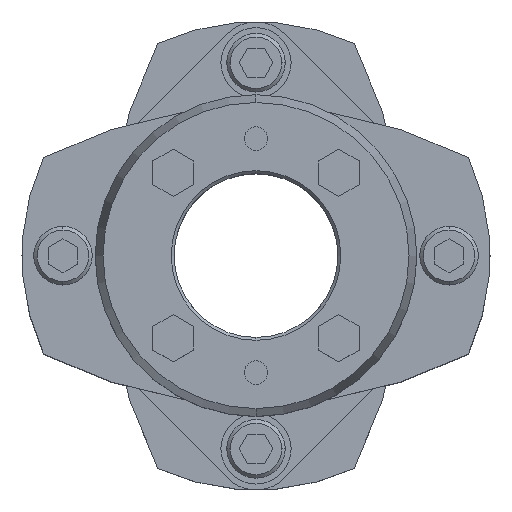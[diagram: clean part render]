
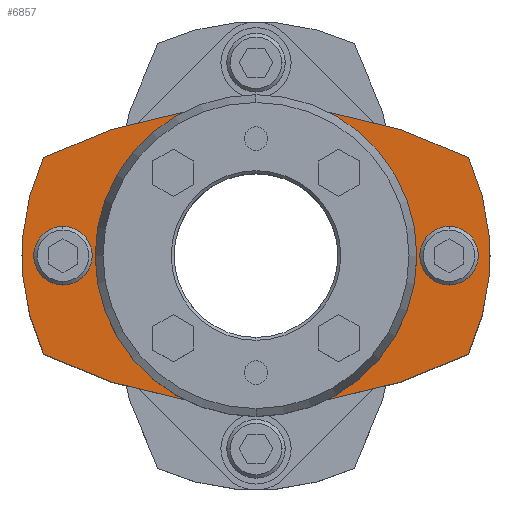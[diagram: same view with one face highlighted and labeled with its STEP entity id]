
A CAD part, top view. The second image highlights one B-rep face of the part: STEP entity #6857.
In plain terms, the highlighted planar face has unit normal (0, 0, 1).
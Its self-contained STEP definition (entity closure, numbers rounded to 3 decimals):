
#1593=CARTESIAN_POINT('',(0.,25.5,19.25));
#1594=VERTEX_POINT('',#1593);
#1610=CARTESIAN_POINT('',(-36.307,16.787,19.25));
#1611=VERTEX_POINT('',#1610);
#1618=CARTESIAN_POINT('',(0.,-54.5,19.25));
#1619=DIRECTION('',(0.0,0.0,-1.0));
#1620=DIRECTION('',(0.,1.0,0.0));
#1621=AXIS2_PLACEMENT_3D('',#1618,#1619,#1620);
#1622=CIRCLE('',#1621,80.);
#1623=EDGE_CURVE('',#1611,#1594,#1622,.T.);
#1633=CARTESIAN_POINT('',(0.,-25.5,19.25));
#1634=VERTEX_POINT('',#1633);
#1643=CARTESIAN_POINT('',(-36.307,-16.787,19.25));
#1644=VERTEX_POINT('',#1643);
#1645=CARTESIAN_POINT('',(0.,54.5,19.25));
#1646=DIRECTION('',(0.0,0.0,-1.0));
#1647=DIRECTION('',(0.,1.0,0.0));
#1648=AXIS2_PLACEMENT_3D('',#1645,#1646,#1647);
#1649=CIRCLE('',#1648,80.);
#1650=EDGE_CURVE('',#1634,#1644,#1649,.T.);
#1899=CARTESIAN_POINT('',(0.,24.,19.25));
#1900=VERTEX_POINT('',#1899);
#1950=CARTESIAN_POINT('',(0.,-24.,19.25));
#1951=VERTEX_POINT('',#1950);
#1958=CARTESIAN_POINT('',(0.,0.,19.25));
#1959=DIRECTION('',(0.0,0.0,-1.0));
#1960=DIRECTION('',(0.,1.0,0.0));
#1961=AXIS2_PLACEMENT_3D('',#1958,#1959,#1960);
#1962=CIRCLE('',#1961,24.0);
#1963=EDGE_CURVE('',#1900,#1951,#1962,.T.);
#2059=CARTESIAN_POINT('',(33.,5.,19.25));
#2060=VERTEX_POINT('',#2059);
#2076=CARTESIAN_POINT('',(33.,-5.,19.25));
#2077=VERTEX_POINT('',#2076);
#2084=CARTESIAN_POINT('',(33.,0.,19.25));
#2085=DIRECTION('',(0.0,0.0,-1.0));
#2086=DIRECTION('',(0.,1.0,0.0));
#2087=AXIS2_PLACEMENT_3D('',#2084,#2085,#2086);
#2088=CIRCLE('',#2087,5.0);
#2089=EDGE_CURVE('',#2060,#2077,#2088,.T.);
#2133=CARTESIAN_POINT('',(-33.,5.,19.25));
#2134=VERTEX_POINT('',#2133);
#2150=CARTESIAN_POINT('',(-33.,-5.,19.25));
#2151=VERTEX_POINT('',#2150);
#2158=CARTESIAN_POINT('',(-33.,0.,19.25));
#2159=DIRECTION('',(0.0,0.0,-1.0));
#2160=DIRECTION('',(0.,1.0,0.0));
#2161=AXIS2_PLACEMENT_3D('',#2158,#2159,#2160);
#2162=CIRCLE('',#2161,5.0);
#2163=EDGE_CURVE('',#2134,#2151,#2162,.T.);
#5408=CARTESIAN_POINT('',(-33.,0.,19.25));
#5409=DIRECTION('',(0.0,0.0,-1.0));
#5410=DIRECTION('',(0.,1.0,0.0));
#5411=AXIS2_PLACEMENT_3D('',#5408,#5409,#5410);
#5412=CIRCLE('',#5411,5.0);
#5413=EDGE_CURVE('',#2151,#2134,#5412,.T.);
#5468=CARTESIAN_POINT('',(33.,0.,19.25));
#5469=DIRECTION('',(0.0,0.0,-1.0));
#5470=DIRECTION('',(0.,1.0,0.0));
#5471=AXIS2_PLACEMENT_3D('',#5468,#5469,#5470);
#5472=CIRCLE('',#5471,5.0);
#5473=EDGE_CURVE('',#2077,#2060,#5472,.T.);
#6540=CARTESIAN_POINT('',(0.,0.,19.25));
#6541=DIRECTION('',(0.0,0.0,-1.0));
#6542=DIRECTION('',(0.,1.0,0.0));
#6543=AXIS2_PLACEMENT_3D('',#6540,#6541,#6542);
#6544=CIRCLE('',#6543,24.0);
#6545=EDGE_CURVE('',#1951,#1900,#6544,.T.);
#6753=CARTESIAN_POINT('',(36.307,-16.787,19.25));
#6754=VERTEX_POINT('',#6753);
#6761=CARTESIAN_POINT('',(0.,54.5,19.25));
#6762=DIRECTION('',(0.0,0.0,-1.0));
#6763=DIRECTION('',(0.,1.0,0.0));
#6764=AXIS2_PLACEMENT_3D('',#6761,#6762,#6763);
#6765=CIRCLE('',#6764,80.);
#6766=EDGE_CURVE('',#6754,#1634,#6765,.T.);
#6776=CARTESIAN_POINT('',(0.,0.,19.25));
#6777=DIRECTION('',(0.0,0.0,-1.0));
#6778=DIRECTION('',(0.,1.0,0.0));
#6779=AXIS2_PLACEMENT_3D('',#6776,#6777,#6778);
#6780=CIRCLE('',#6779,40.);
#6781=EDGE_CURVE('',#1644,#1611,#6780,.T.);
#6795=CARTESIAN_POINT('',(36.307,16.787,19.25));
#6796=VERTEX_POINT('',#6795);
#6797=CARTESIAN_POINT('',(0.,-54.5,19.25));
#6798=DIRECTION('',(0.0,0.0,-1.0));
#6799=DIRECTION('',(0.,1.0,0.0));
#6800=AXIS2_PLACEMENT_3D('',#6797,#6798,#6799);
#6801=CIRCLE('',#6800,80.);
#6802=EDGE_CURVE('',#1594,#6796,#6801,.T.);
#6819=CARTESIAN_POINT('',(0.,0.,19.25));
#6820=DIRECTION('',(0.0,0.0,-1.0));
#6821=DIRECTION('',(0.,1.0,0.0));
#6822=AXIS2_PLACEMENT_3D('',#6819,#6820,#6821);
#6823=CIRCLE('',#6822,40.);
#6824=EDGE_CURVE('',#6796,#6754,#6823,.T.);
#6832=CARTESIAN_POINT('',(0.,0.,19.25));
#6833=DIRECTION('',(0.0,0.0,1.0));
#6834=DIRECTION('',(0.,1.0,0.0));
#6835=AXIS2_PLACEMENT_3D('',#6832,#6833,#6834);
#6836=PLANE('',#6835);
#6837=ORIENTED_EDGE('',*,*,#6766,.F.);
#6838=ORIENTED_EDGE('',*,*,#6824,.F.);
#6839=ORIENTED_EDGE('',*,*,#6802,.F.);
#6840=ORIENTED_EDGE('',*,*,#1623,.F.);
#6841=ORIENTED_EDGE('',*,*,#6781,.F.);
#6842=ORIENTED_EDGE('',*,*,#1650,.F.);
#6843=EDGE_LOOP('',(#6837,#6838,#6839,#6840,#6841,#6842));
#6844=FACE_OUTER_BOUND('',#6843,.T.);
#6845=ORIENTED_EDGE('',*,*,#2163,.T.);
#6846=ORIENTED_EDGE('',*,*,#5413,.T.);
#6847=EDGE_LOOP('',(#6845,#6846));
#6848=FACE_BOUND('',#6847,.T.);
#6849=ORIENTED_EDGE('',*,*,#2089,.T.);
#6850=ORIENTED_EDGE('',*,*,#5473,.T.);
#6851=EDGE_LOOP('',(#6849,#6850));
#6852=FACE_BOUND('',#6851,.T.);
#6853=ORIENTED_EDGE('',*,*,#1963,.T.);
#6854=ORIENTED_EDGE('',*,*,#6545,.T.);
#6855=EDGE_LOOP('',(#6853,#6854));
#6856=FACE_BOUND('',#6855,.T.);
#6857=ADVANCED_FACE('',(#6844,#6848,#6852,#6856),#6836,.T.);
